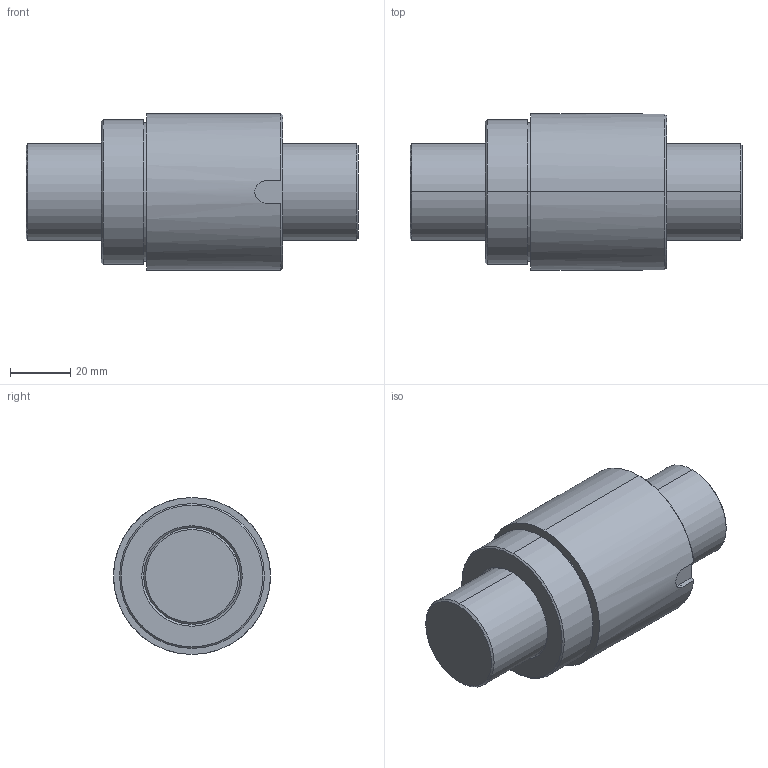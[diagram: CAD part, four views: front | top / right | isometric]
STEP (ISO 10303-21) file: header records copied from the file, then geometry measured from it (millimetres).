
FILE_DESCRIPTION(('no description'),'unknown implementation level');
FILE_NAME('R32_05T5_SE_110_110_0_023_5.stp',' ',('HIWIN GmbH'),('CADClick - KiM GmbH - www.kimweb.de'),'unknown preprocess','ACIS','unknown authorization');
FILE_SCHEMA(('automotive_design'));
Length unit declared in the file: millimetre
Products named in the file (2): R32-05T5-SE 110 110 0.023; R32-05T5-SE 110 110 0.023_1
Bounding box: 110 x 52 x 52 mm (x, y, z)
Volume: 162416 mm3; surface area: 31051.8 mm2
Topology: 2 solids, 2 shells, 40 faces, 90 edges, 56 vertices
Faces by surface type: cone 14, cylinder 14, plane 12
Entity records: 2275 total; most frequent: CARTESIAN_POINT 264, DIRECTION 206, STYLED_ITEM 188, PRESENTATION_STYLE_ASSIGNMENT 188, COLOUR_RGB 188, ORIENTED_EDGE 180, EDGE_CURVE 90, CURVE_STYLE 90
